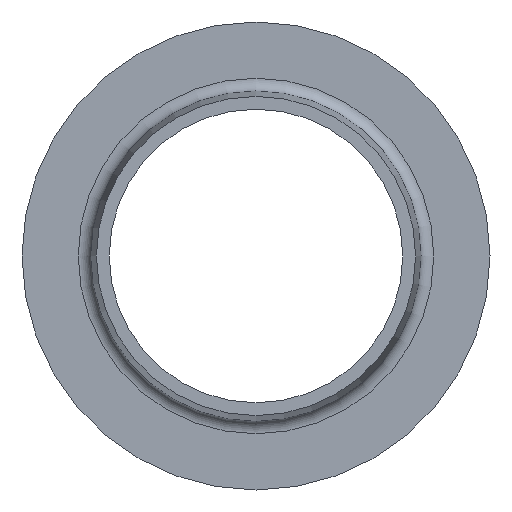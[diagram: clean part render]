
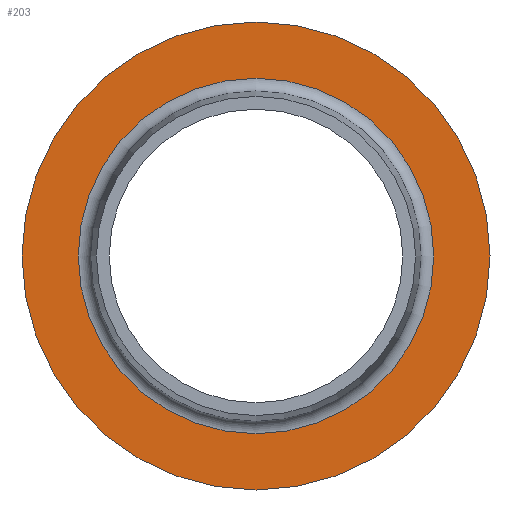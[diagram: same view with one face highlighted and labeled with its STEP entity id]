
A CAD part, left-side view. The second image highlights one B-rep face of the part: STEP entity #203.
In plain terms, the highlighted planar face has unit normal (-1, 0, 0).
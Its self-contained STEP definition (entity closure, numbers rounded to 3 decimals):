
#12=PLANE($,#227);
#29=FACE_BOUND($,#67,.T.);
#50=FACE_OUTER_BOUND($,#66,.T.);
#66=EDGE_LOOP($,(#151));
#67=EDGE_LOOP($,(#152));
#97=CIRCLE($,#226,41.778);
#98=CIRCLE($,#228,55.);
#114=VERTEX_POINT($,#334);
#115=VERTEX_POINT($,#337);
#131=EDGE_CURVE($,#114,#114,#97,.T.);
#132=EDGE_CURVE($,#115,#115,#98,.T.);
#151=ORIENTED_EDGE($,*,*,#132,.F.);
#152=ORIENTED_EDGE($,*,*,#131,.T.);
#203=ADVANCED_FACE($,(#50,#29),#12,.T.);
#226=AXIS2_PLACEMENT_3D($,#335,#268,#269);
#227=AXIS2_PLACEMENT_3D($,#336,#270,#271);
#228=AXIS2_PLACEMENT_3D($,#338,#272,#273);
#268=DIRECTION('center_axis',(1.,0.,0.));
#269=DIRECTION('ref_axis',(0.,1.,0.));
#270=DIRECTION('center_axis',(-1.,0.,0.));
#271=DIRECTION('ref_axis',(0.,0.,1.));
#272=DIRECTION('center_axis',(1.,0.,0.));
#273=DIRECTION('ref_axis',(0.,1.,0.));
#334=CARTESIAN_POINT('',(55.,41.778,0.));
#335=CARTESIAN_POINT('Origin',(55.,0.,0.));
#336=CARTESIAN_POINT('Origin',(55.,48.389,0.));
#337=CARTESIAN_POINT('',(55.,55.,0.));
#338=CARTESIAN_POINT('Origin',(55.,0.,0.));
